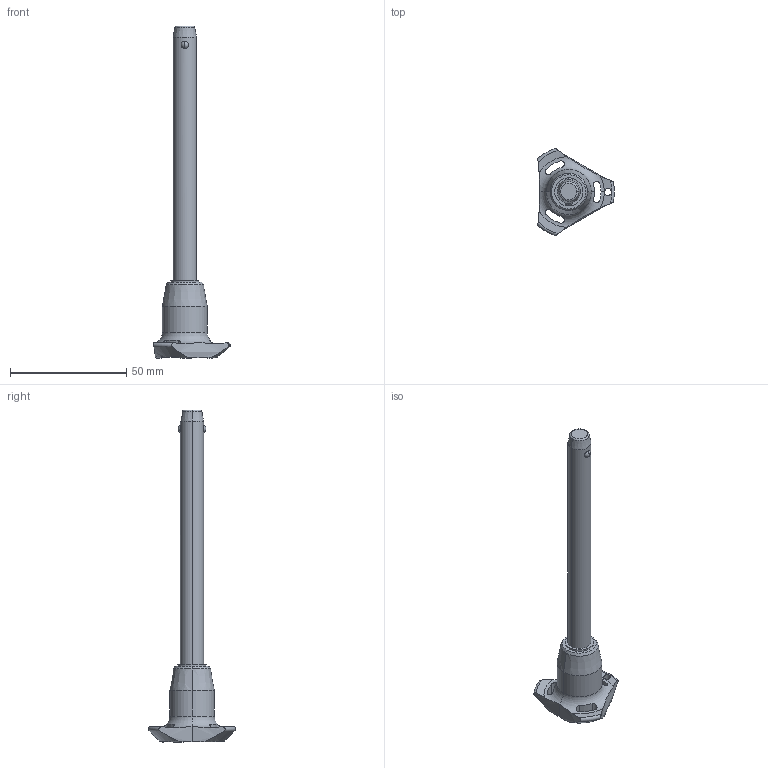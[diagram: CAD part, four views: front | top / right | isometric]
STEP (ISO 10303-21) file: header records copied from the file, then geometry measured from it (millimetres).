
FILE_DESCRIPTION (( 'STEP AP203' ), '1' );
FILE_NAME ('QR1734.M10-100-S.step', '2025-11-12T14:28:05', ( '' ), ( '' ), 'SwSTEP 2.0', 'SolidWorks 2019', '' );
FILE_SCHEMA (( 'CONFIG_CONTROL_DESIGN' ));
Length unit declared in the file: millimetre
Products named in the file (1): QR1734.M10-100-S
Bounding box: 33 x 37.51 x 142.9 mm (x, y, z)
Volume: 18933.9 mm3; surface area: 7306 mm2
Topology: 1 solids, 1 shells, 65 faces, 174 edges, 109 vertices
Faces by surface type: cylinder 30, cone 14, torus 11, sphere 6, plane 4
Entity records: 2758 total; most frequent: CARTESIAN_POINT 1085, ORIENTED_EDGE 348, DIRECTION 331, EDGE_CURVE 174, AXIS2_PLACEMENT_3D 147, VERTEX_POINT 109, CIRCLE 81, EDGE_LOOP 71
